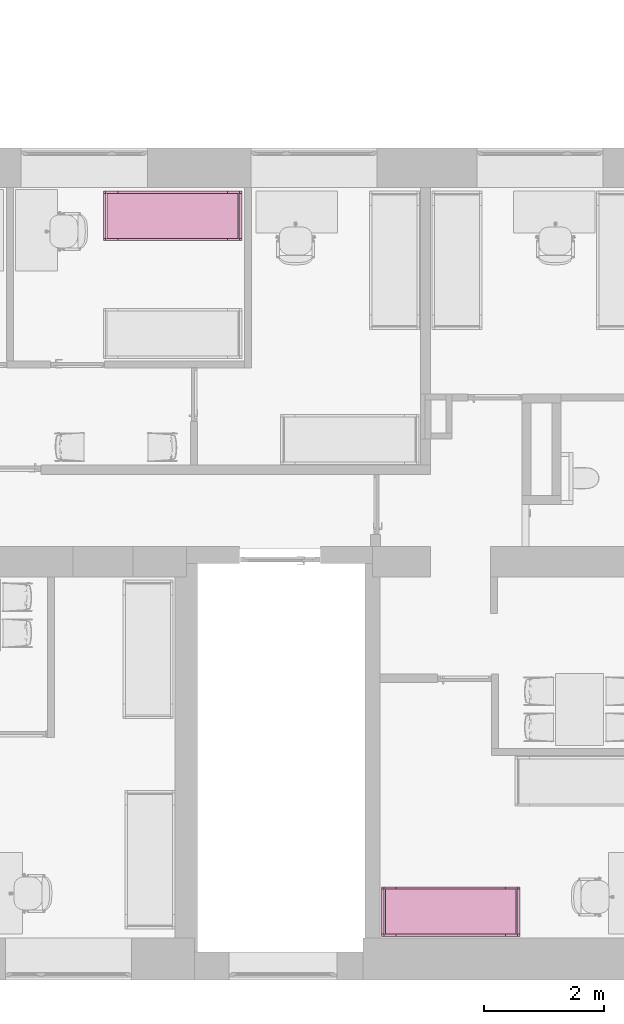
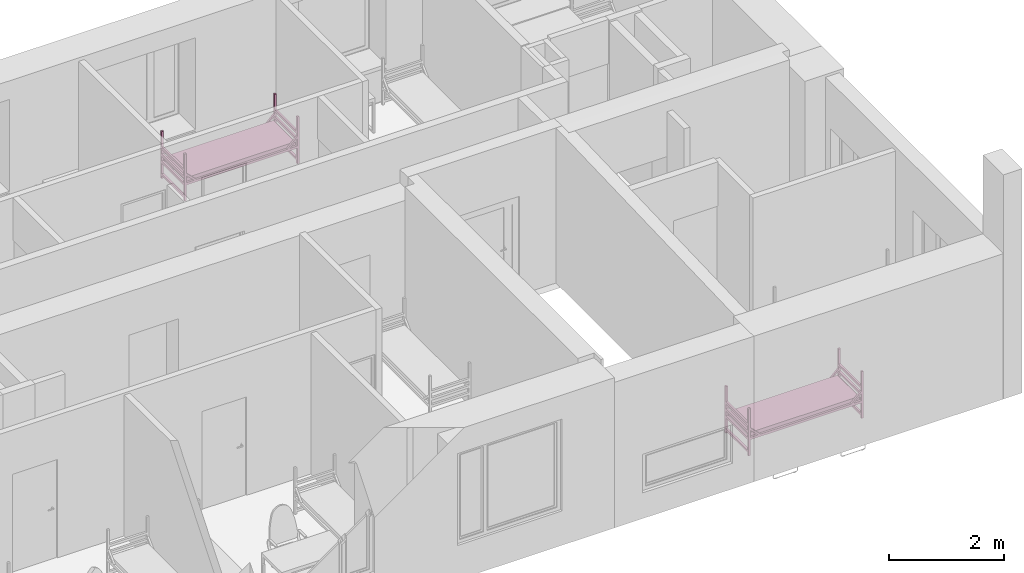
# One storey, part 40 of 46: 2 furnishings.
"""IFC2X3 building model written with IfcOpenShell, lengths in millimetres."""

from ifc_helpers import new_model, entity, si_unit, converted_unit, derived_unit, direction, frame, frame_2d, origin, place, context, subcontext, project, spatial, polyline, circle_curve, parameter, trimmed, segment, composite_curve, rectangle, outline, extrude, source, transform, mapped, material, type_object, type_shapes, element, save


model = new_model("IFC2X3")

# Units and contexts
model_context = context("Model", 3, precision=0.01, world=origin(), true_north=direction((6.12303176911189e-17, 1.0)))
body_context = subcontext(model_context, "Body", "Model", "MODEL_VIEW")
ifc_project = project(units=[si_unit("LENGTHUNIT", "METRE", prefix="MILLI"), si_unit("AREAUNIT", "SQUARE_METRE"), si_unit("VOLUMEUNIT", "CUBIC_METRE"), converted_unit("PLANEANGLEUNIT", "DEGREE", entity("IfcRatioMeasure", 0.0174532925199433), si_unit("PLANEANGLEUNIT", "RADIAN"), dimensions=[0, 0, 0, 0, 0, 0, 0]), si_unit("MASSUNIT", "GRAM", prefix="KILO"), derived_unit("MASSDENSITYUNIT", [(si_unit("MASSUNIT", "GRAM", prefix="KILO"), 1), (si_unit("LENGTHUNIT", "METRE"), -3)]), si_unit("TIMEUNIT", "SECOND"), si_unit("FREQUENCYUNIT", "HERTZ"), si_unit("THERMODYNAMICTEMPERATUREUNIT", "DEGREE_CELSIUS"), derived_unit("THERMALTRANSMITTANCEUNIT", [(si_unit("MASSUNIT", "GRAM", prefix="KILO"), 1), (si_unit("THERMODYNAMICTEMPERATUREUNIT", "KELVIN"), -1), (si_unit("TIMEUNIT", "SECOND"), -3)]), derived_unit("VOLUMETRICFLOWRATEUNIT", [(si_unit("LENGTHUNIT", "METRE"), 3), (si_unit("TIMEUNIT", "SECOND"), -1)]), si_unit("ELECTRICCURRENTUNIT", "AMPERE"), si_unit("ELECTRICVOLTAGEUNIT", "VOLT"), si_unit("POWERUNIT", "WATT"), si_unit("FORCEUNIT", "NEWTON", prefix="KILO"), si_unit("ILLUMINANCEUNIT", "LUX"), si_unit("LUMINOUSFLUXUNIT", "LUMEN"), si_unit("LUMINOUSINTENSITYUNIT", "CANDELA"), derived_unit("USERDEFINED", [(si_unit("MASSUNIT", "GRAM", prefix="KILO"), -1), (si_unit("LENGTHUNIT", "METRE"), -2), (si_unit("TIMEUNIT", "SECOND"), 3), (si_unit("LUMINOUSFLUXUNIT", "LUMEN"), 1)]), derived_unit("LINEARVELOCITYUNIT", [(si_unit("LENGTHUNIT", "METRE"), 1), (si_unit("TIMEUNIT", "SECOND"), -1)]), si_unit("PRESSUREUNIT", "PASCAL"), derived_unit("USERDEFINED", [(si_unit("LENGTHUNIT", "METRE"), -2), (si_unit("MASSUNIT", "GRAM", prefix="KILO"), 1), (si_unit("TIMEUNIT", "SECOND"), -2)]), derived_unit("LINEARFORCEUNIT", [(si_unit("MASSUNIT", "GRAM", prefix="KILO"), 1), (si_unit("LENGTHUNIT", "METRE"), 1), (si_unit("TIMEUNIT", "SECOND"), -2), (si_unit("LENGTHUNIT", "METRE"), -1)]), derived_unit("PLANARFORCEUNIT", [(si_unit("MASSUNIT", "GRAM", prefix="KILO"), 1), (si_unit("LENGTHUNIT", "METRE"), 1), (si_unit("TIMEUNIT", "SECOND"), -2), (si_unit("LENGTHUNIT", "METRE"), -2)])], contexts=[model_context])

# Site, building, storey, space
site_placement = place(None, origin())
site = spatial("IfcSite", under=ifc_project, at=site_placement, Name="Default", CompositionType="ELEMENT")
building_placement = place(site_placement, origin())
building = spatial("IfcBuilding", under=site, at=building_placement, Name="SMA ARH", CompositionType="ELEMENT")
storey_placement = place(building_placement, frame((0.0, 0.0, 9910.0)))
storey = spatial("IfcBuildingStorey", under=building, at=storey_placement, Name="4 Korrus", CompositionType="ELEMENT", Elevation=9909.9999999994)
space_1_placement = place(storey_placement, origin())
space_1 = spatial("IfcSpace", under=storey, at=space_1_placement, Name="4-30", CompositionType="ELEMENT", InteriorOrExteriorSpace="INTERNAL")

# Furnishing
ifc_material = material(Name="Madrats")
furniture_type = type_object("IfcFurnitureType", Name="Kasarmu voodi ühekordne 2308x830:Kasarmu voodi ühekordne 2308x830", material=ifc_material)
shared_shape = source(origin(), body_context, "Body", "SweptSolid", [
    extrude(rectangle(XDim=39.9999999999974, YDim=750.000000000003, at=frame_2d((-1.35003119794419e-13, -2.8421709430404e-14), x_axis=(1.0, 0.0))), frame((1.68638457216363, -1226.7969571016, 55.0), z_axis=(0.0, 0.0, 1.0), x_axis=(0.0, -1.0, 0.0)), (0.0, 0.0, 1.0), 49.9999999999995),
    extrude(rectangle(XDim=39.9999999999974, YDim=750.000000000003, at=frame_2d((-1.35003119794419e-13, -2.8421709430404e-14), x_axis=(1.0, 0.0))), frame((1.68638457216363, -1226.7969571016, 325.0), z_axis=(0.0, 0.0, 1.0), x_axis=(0.0, -1.0, 0.0)), (0.0, 0.0, 1.0), 49.9999999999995),
    extrude(rectangle(XDim=39.9999999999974, YDim=750.000000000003, at=frame_2d((-1.35003119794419e-13, -2.8421709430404e-14), x_axis=(1.0, 0.0))), frame((1.68638457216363, -1226.7969571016, 475.0), z_axis=(0.0, 0.0, 1.0), x_axis=(0.0, -1.0, 0.0)), (0.0, 0.0, 1.0), 49.9999999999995),
    extrude(rectangle(XDim=39.9999999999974, YDim=750.000000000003, at=frame_2d((-1.35003119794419e-13, -2.8421709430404e-14), x_axis=(1.0, 0.0))), frame((1.68638457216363, -1226.7969571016, 625.0), z_axis=(0.0, 0.0, 1.0), x_axis=(0.0, -1.0, 0.0)), (0.0, 0.0, 1.0), 50.0000000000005),
    extrude(rectangle(XDim=39.9999999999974, YDim=750.000000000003, at=frame_2d((1.35003119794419e-13, -2.8421709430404e-14), x_axis=(1.0, 0.0))), frame((1.68638457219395, 1041.2030428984, 55.0), z_axis=(0.0, 0.0, 1.0), x_axis=(0.0, -1.0, 0.0)), (0.0, 0.0, 1.0), 50.0000000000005),
    extrude(rectangle(XDim=39.9999999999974, YDim=750.000000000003, at=frame_2d((1.35003119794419e-13, -2.8421709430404e-14), x_axis=(1.0, 0.0))), frame((1.68638457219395, 1041.2030428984, 325.0), z_axis=(0.0, 0.0, 1.0), x_axis=(0.0, -1.0, 0.0)), (0.0, 0.0, 1.0), 50.0000000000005),
    extrude(rectangle(XDim=39.9999999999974, YDim=750.000000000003, at=frame_2d((1.35003119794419e-13, -2.8421709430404e-14), x_axis=(1.0, 0.0))), frame((1.68638457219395, 1041.2030428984, 475.0), z_axis=(0.0, 0.0, 1.0), x_axis=(0.0, -1.0, 0.0)), (0.0, 0.0, 1.0), 50.0000000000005),
    extrude(rectangle(XDim=39.9999999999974, YDim=750.000000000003, at=frame_2d((1.35003119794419e-13, -2.8421709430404e-14), x_axis=(1.0, 0.0))), frame((1.68638457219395, 1041.2030428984, 625.0), z_axis=(0.0, 0.0, 1.0), x_axis=(0.0, -1.0, 0.0)), (0.0, 0.0, 1.0), 49.9999999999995),
    extrude(outline(composite_curve([segment(trimmed(circle_curve(frame_2d((1085.0, -40.0), x_axis=(1.0, 0.0)), 10.0), [parameter(270.0)], [parameter(0.0)], True, "PARAMETER"), True, "CONTINUOUS"), segment(polyline([(1095.0, -40.0), (1095.0, 40.0)]), True, "CONTINUOUS"), segment(trimmed(circle_curve(frame_2d((1085.0, 40.0), x_axis=(1.0, 0.0)), 10.0), [parameter(0.0)], [parameter(90.0000000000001)], True, "PARAMETER"), True, "CONTINUOUS"), segment(polyline([(1085.0, 50.0), (-1085.0, 50.0)]), True, "CONTINUOUS"), segment(trimmed(circle_curve(frame_2d((-1085.0, 40.0), x_axis=(1.0, 0.0)), 10.0), [parameter(90.0000000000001)], [parameter(180.0)], True, "PARAMETER"), True, "CONTINUOUS"), segment(polyline([(-1095.0, 40.0), (-1095.0, -40.0)]), True, "CONTINUOUS"), segment(trimmed(circle_curve(frame_2d((-1085.0, -40.0), x_axis=(1.0, 0.0)), 10.0), [parameter(180.0)], [parameter(270.0)], True, "PARAMETER"), True, "CONTINUOUS"), segment(polyline([(-1085.0, -50.0), (1085.0, -50.0)]), True, "CONTINUOUS")], self_intersect=False)), frame((-373.313615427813, -92.7969571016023, 405.0), z_axis=(1.0, 0.0, 0.0), x_axis=(0.0, -1.0, 0.0)), (0.0, 0.0, 1.0), 750.000000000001),
    extrude(outline(polyline([(-1114.0, -100.0), (1114.0, -100.0), (1114.0, -50.0), (961.59199141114, -50.0), (1114.0, 100.0), (1114.0, 150.0), (910.789321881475, -50.0), (-910.789321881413, -50.0), (-1114.0, 150.0), (-1114.0, 100.0), (-961.591991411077, -50.0), (-1114.0, -50.0), (-1114.0, -100.0)])), frame((-413.313615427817, -92.7969571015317, 430.0), z_axis=(1.0, 0.0, 0.0), x_axis=(0.0, 1.0, 0.0)), (0.0, 0.0, 1.0), 39.9999999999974),
    extrude(outline(polyline([(-1114.0, -100.0), (1114.0, -100.0), (1114.0, -50.0), (961.591991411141, -50.0), (1114.0, 100.0), (1114.0, 150.0), (910.789321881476, -50.0), (-910.789321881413, -50.0), (-1114.0, 150.0), (-1114.0, 100.0), (-961.591991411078, -50.0), (-1114.0, -50.0), (-1114.0, -100.0)])), frame((376.686384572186, -92.796957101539, 430.0), z_axis=(1.0, 0.0, 0.0), x_axis=(0.0, 1.0, 0.0)), (0.0, 0.0, 1.0), 39.9999999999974),
    extrude(rectangle(XDim=39.9999999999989, YDim=39.9999999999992, at=frame_2d((-6.75015598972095e-14, 0.0), x_axis=(1.0, 0.0))), frame((396.686384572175, -1226.79695710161, 0.0), z_axis=(0.0, 0.0, 1.0), x_axis=(0.0, 1.0, 0.0)), (0.0, 0.0, 1.0), 995.0),
    extrude(rectangle(XDim=39.9999999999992, YDim=39.9999999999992, at=frame_2d((-1.35003119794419e-13, 0.0), x_axis=(1.0, 0.0))), frame((396.686384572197, 1041.20304289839, 0.0), z_axis=(0.0, 0.0, 1.0), x_axis=(0.0, 1.0, 0.0)), (0.0, 0.0, 1.0), 995.0),
    extrude(rectangle(XDim=40.0000000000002, YDim=39.9999999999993, at=frame_2d((-1.35003119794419e-13, 0.0), x_axis=(1.0, 0.0))), frame((-393.313615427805, 1041.2030428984, 0.0), z_axis=(0.0, 0.0, 1.0), x_axis=(0.0, 1.0, 0.0)), (0.0, 0.0, 1.0), 995.0),
    extrude(rectangle(XDim=39.9999999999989, YDim=39.9999999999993, at=frame_2d((-6.75015598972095e-14, 0.0), x_axis=(1.0, 0.0))), frame((-393.313615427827, -1226.7969571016, 0.0), z_axis=(0.0, 0.0, 1.0), x_axis=(0.0, 1.0, 0.0)), (0.0, 0.0, 1.0), 995.0),
])
type_shapes(furniture_type, [shared_shape])
furnishing_1_placement = place(space_1_placement, frame((30319.2030428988, 12030.0, 0.0), z_axis=(0.0, 0.0, 1.0), x_axis=(0.0, 1.0, 0.0)))
element("IfcFurnishingElement", 1, at=furnishing_1_placement, inside=space_1, type_object=furniture_type, material=ifc_material, Name="Kasarmu voodi ühekordne 2308x830:Kasarmu voodi ühekordne 2308x830", ObjectType="Kasarmu voodi ühekordne 2308x830:Kasarmu voodi ühekordne 2308x830", context=body_context, shape_type="MappedRepresentation", body=[
    mapped(shared_shape, transform((0.0, 0.0, 0.0), scale=1.0)),
])

# Space
space_2_placement = place(storey_placement, origin())
space_2 = spatial("IfcSpace", under=storey, at=space_2_placement, Name="4-1", CompositionType="ELEMENT", InteriorOrExteriorSpace="INTERNAL")

# Furnishing
furnishing_2_placement = place(space_2_placement, frame((35139.0, 440.0, 0.0), z_axis=(0.0, 0.0, 1.0), x_axis=(0.0, -1.0, 0.0)))
element("IfcFurnishingElement", 2, at=furnishing_2_placement, inside=space_2, type_object=furniture_type, material=ifc_material, Name="Kasarmu voodi ühekordne 2308x830:Kasarmu voodi ühekordne 2308x830", ObjectType="Kasarmu voodi ühekordne 2308x830:Kasarmu voodi ühekordne 2308x830", context=body_context, shape_type="MappedRepresentation", body=[
    mapped(shared_shape, transform((0.0, 0.0, 0.0), scale=1.0)),
])

save(model, "model.ifc")
